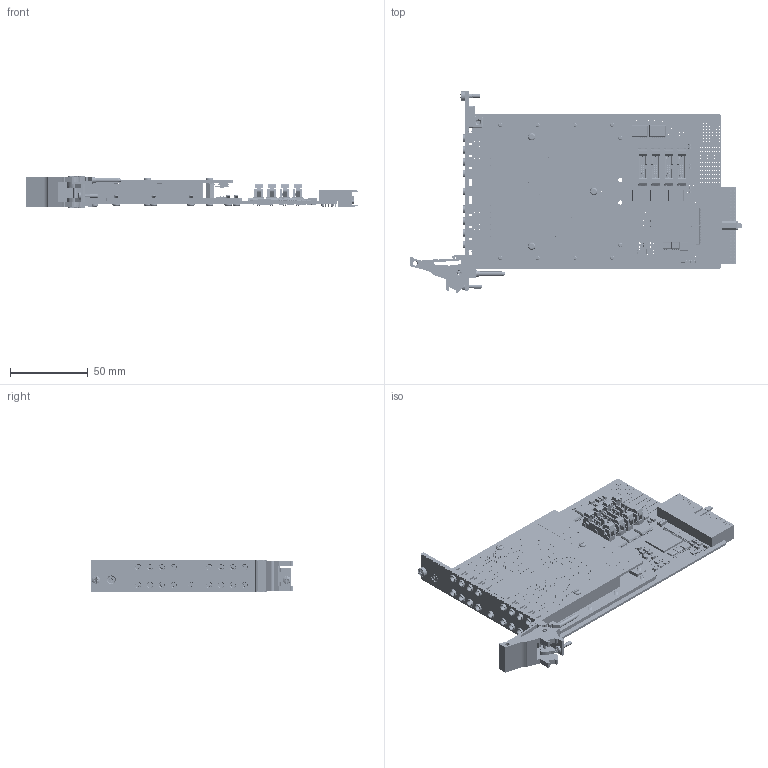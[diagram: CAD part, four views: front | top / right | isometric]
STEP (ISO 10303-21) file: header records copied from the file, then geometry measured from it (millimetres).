
FILE_DESCRIPTION (( 'STEP AP214' ), '1' );
FILE_NAME ('40-875A-101 PXI RF Multiplexer Single 16-Channel 3GHz 50Ohm MCX.step', '2023-05-11T15:01:43', ( '' ), ( '' ), 'SwSTEP 2.0', 'SolidWorks 2021', '' );
FILE_SCHEMA (( 'AUTOMOTIVE_DESIGN' ));
Length unit declared in the file: millimetre
Products named in the file (83): C-SC-137 TVS DIODE ARRAY; C-CP-034; C-FX-432 M2.5 x 6mm Slotted Screw with Vibra Fix Solution; C-CP-139 CAP 4.7UF 1206 16V X7R 10%; C-MS-1069 Shielded Power Inductor; C-CN-1015 MCX End Launch Plug (50 Ohm); C-IC-548 1-Bit Flip-Flop 8-Pin SM8; C-CP-175 CAP 22uF 1206 25V X5R 10%; C-SC-056 80V 250mA (DC) SOD323 Diode; C-IC-426 32-Flash Memory Standard Serial NOR 32Mbit SPI WSOIC-8; G-FP-793 PXI 17xSMB Laser Cut RF Gasket Pad; A-PC-845-# REVISED RF 16-1MUX 50OHM; P-FX-017 M2,5 Collar Posi-Slot Screw; C-FX-042 Screw M2.5x6 CSK Pozi_M 2.5x06 - C-FX-042; C-RS-152 Res 10K 0603 1-16W 1% 300PPM; C-FX-101 Screw, M2.5 x 6, Pan Hd, Pozi, Steel, BZP; A-PC-845-V02 REVISED RF 16-1MUX 50OHM; C-FX-552 FP Mother & Daughter Clamp L; L-FX-165 PXI Handle Label; C-IC-458 LDO VOLTAGE REGULATOR 1.2V SOT; C-CP-190 CAP 33000pF 3 TERMINAL 6A; C-FX-683 RF Mother and Daughter Screen without Pickering Logo_bENDS; C-CN-1071; C-CP-124 CAP 10nF CERAMIC SMT 0402; C-RL-230 HF353 50 OHM 5V SMT RF RELAY; L-FP-770 PXI 1 SLT FP Label Assy; C-IC-338 4-Channel Digital Isolator 16-Pin SOIC W; C-IC-425 SOICN 8PIN SD; C-BK-026 Bush Front Panel Mounting; C-FX-165 CPCI Ejector Handle; C-CN-1075 SMP ADAPTOR 8.6mm; C-IC-310 SOT353 SD; C-RS-147 Res 100R 0603 1-16W 1% 100PPM; C-BP-015 PXI 3U x 1 Slot Blank Panel; C-CP-099 CAP 0.1uF 16V 0402 SMT; A-PC-844-V02 REVISED RF 16-1MUX 50OHM; C-CN-107-PIN; C-IC-497 High Accuracy 3V to 17V Step Down Converter; C-PC-845 REVISED RF 16-1MUX 50OHM; C-FX-165 Handle Pin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
Assembly tree (319 placements, depth 5):
  40-875A-101 PXI RF Multiplexer Single 16-Channel 3GHz 50Ohm MCX
    A-PC-1323-A RF MUX MOTHERBOARD
      A-PC-1323-A-# RF MUX MOTHERBOARD
        C-PC-1323 RF MUX MOTHERBOARD WITH PXIe
        C-CN-355 Compact pci connector 3_Render
        C-CN-897 2x8 way Connector 1.27 pitch  x4
        C-CN-1071
          C-CN-107-BODY
          C-CN-107-PIN  x8
        C-CP-033 Capacitor 10nF SMT 0603  x3
        C-CP-034  x31
        C-CP-099 CAP 0.1uF 16V 0402 SMT  x14
        C-CP-124 CAP 10nF CERAMIC SMT 0402  x29
        C-CP-130 CAP 1uF CERAMIC SMT 0603  x4
        C-CP-131 CAP 3.3nF CERAMIC SMT 0402
        C-CP-139 CAP 4.7UF 1206 16V X7R 10%  x4
        C-CP-141 CAP 10UF 1206 35V X5R 10%  x8
        C-CP-175 CAP 22uF 1206 25V X5R 10%  x7
        C-CP-239  Power Line Filter  x3
        C-IC-158 Buffer 3-State SOT-23 5-Pin
        C-IC-310 SOT353 SD
        C-IC-338 4-Channel Digital Isolator 16-Pin SOIC W  x5
        C-IC-369 FPGA 17000 Cells 65nm Technology 1.2V 256-Pin FTBGA
        C-IC-425 SOICN 8PIN SD  x2
        C-IC-426 32-Flash Memory Standard Serial NOR 32Mbit SPI WSOIC-8
        C-IC-442 VSSOP 8PIN SD
        C-IC-458 LDO VOLTAGE REGULATOR 1.2V SOT  x2
        C-IC-497 High Accuracy 3V to 17V Step Down Converter
        C-IC-546 24 BIT BUS SWITCH 56PIN TVSOP  x2
        C-IC-548 1-Bit Flip-Flop 8-Pin SM8
        C-MS-803 BEAD 120R 0603 2A 0R05 25%  x4
        C-MS-1069 Shielded Power Inductor
        C-RS-147 Res 100R 0603 1-16W 1% 100PPM  x2
        C-RS-148 Res 1K 0603 1-16W 1% 100PPM  x2
        C-RS-152 Res 10K 0603 1-16W 1% 300PPM  x5
        C-RS-190 Res 0R0 SIZE 0603 SMT  x5
        C-RS-256 Res 100K (0603) 1.16W 1% 100pp SMT
        C-RS-490 Res 0603 82K SMT
        C-RS-521 Res 120R (0603) 1-16W 1% 100pp
        C-RS-659 RES NW 4K7 4RES 8PINS SMT1206  x4
        C-RS-1247 RES 510K 0603 0.1W 1% 100PPM
        C-RS-1487 RES 100k 0.1W 25PPM 0603
        C-SC-137 TVS DIODE ARRAY
        C-SC-146 Dual Transistor SOT-14  x2
    A-PC-844-V02 REVISED RF 16-1MUX 50OHM
      A-PC-844-# REVISED RF 16-1MUX 50OHM
        C-PC-844 REVISED RF 16-1MUX 50OHM
        C-RS-190 Res 0R0 SIZE 0603 SMT  x21
        C-SC-056 80V 250mA (DC) SOD323 Diode  x8
        C-IC-124 16-Bit Constant Current Sink Driver
        C-CP-190 CAP 33000pF 3 TERMINAL 6A
        C-CN-1288 2 X 8 WAY HEADER RA M SM_LEAD STYLE1PINS8PLATINGFROWDH  x2
        C-CN-1097 SMP PCB M PIN&PASTE LTD DETENT
        C-RL-230 HF353 50 OHM 5V SMT RF RELAY  x8
      C-CN-1015 MCX End Launch Plug (50 Ohm)  x9
    A-PC-845-V02 REVISED RF 16-1MUX 50OHM
      A-PC-845-# REVISED RF 16-1MUX 50OHM
        C-PC-845 REVISED RF 16-1MUX 50OHM
        C-RS-529 RES 10R 0603 1-16W 1% 100PPM  x19
        C-CN-1098 SMP PCB M PIN&PASTE SMOOTH
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Bounding box: 213.7 x 129.63 x 20 mm (x, y, z)
Volume: 86355.4 mm3; surface area: 126266.9 mm2
Topology: 325 solids, 352 shells, 35054 faces, 91045 edges, 58139 vertices
Faces by surface type: plane 19495, cylinder 9727, bspline 2723, cone 2225, torus 692, sphere 192
Entity records: 621037 total; most frequent: CARTESIAN_POINT 98966, DIRECTION 88470, ORIENTED_EDGE 81896, EDGE_CURVE 40950, AXIS2_PLACEMENT_3D 32695, VERTEX_POINT 26357, VECTOR 23080, LINE 23080
